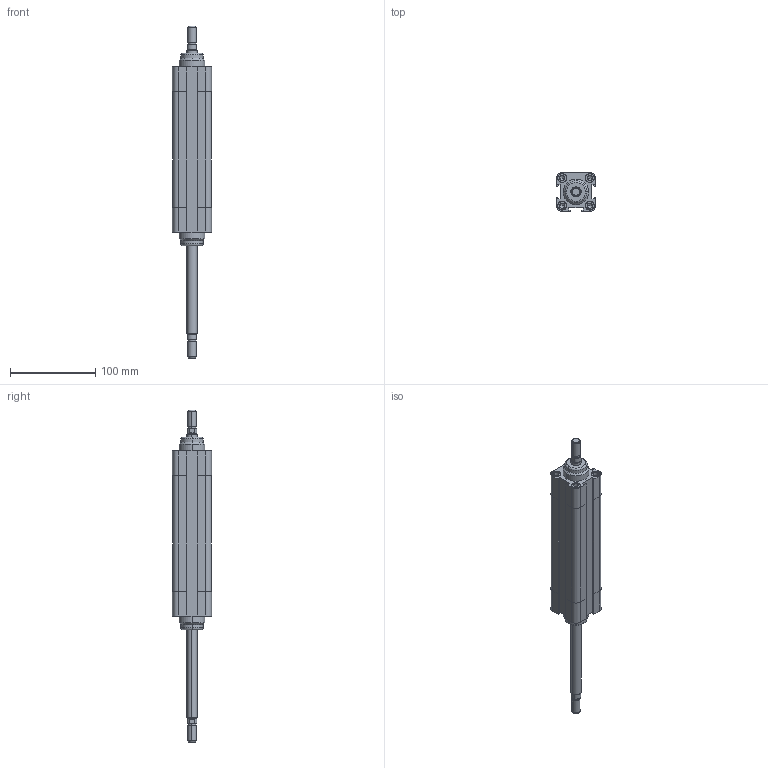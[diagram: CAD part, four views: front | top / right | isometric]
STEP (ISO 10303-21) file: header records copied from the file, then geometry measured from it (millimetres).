
FILE_DESCRIPTION((''),'2;1');
FILE_NAME('F:\Lib-3d\1380\CIL\1380_32_0100_02.stp','2004-01-07T15:58:18',('maffial1'),(''),'Autodesk Inventor 8','Autodesk Inventor 8','');
FILE_SCHEMA(('AUTOMOTIVE_DESIGN { 1 0 10303 214 1 1 1 1 }'));
Length unit declared in the file: millimetre
Products named in the file (3): 1380_32_0100_02; CPP04_32_100; CPP03_32_100
Assembly tree (2 placements, depth 2):
  1380_32_0100_02
    CPP04_32_100
    CPP03_32_100
Bounding box: 46 x 46 x 390 mm (x, y, z)
Volume: 393041.6 mm3; surface area: 77806.4 mm2
Topology: 2 solids, 2 shells, 236 faces, 564 edges, 356 vertices
Faces by surface type: plane 80, cylinder 66, bspline 62, cone 24, torus 4
Entity records: 7513 total; most frequent: CARTESIAN_POINT 2031, DIRECTION 1154, ORIENTED_EDGE 1096, EDGE_CURVE 548, AXIS2_PLACEMENT_3D 427, VERTEX_POINT 356, VECTOR 300, LINE 300
